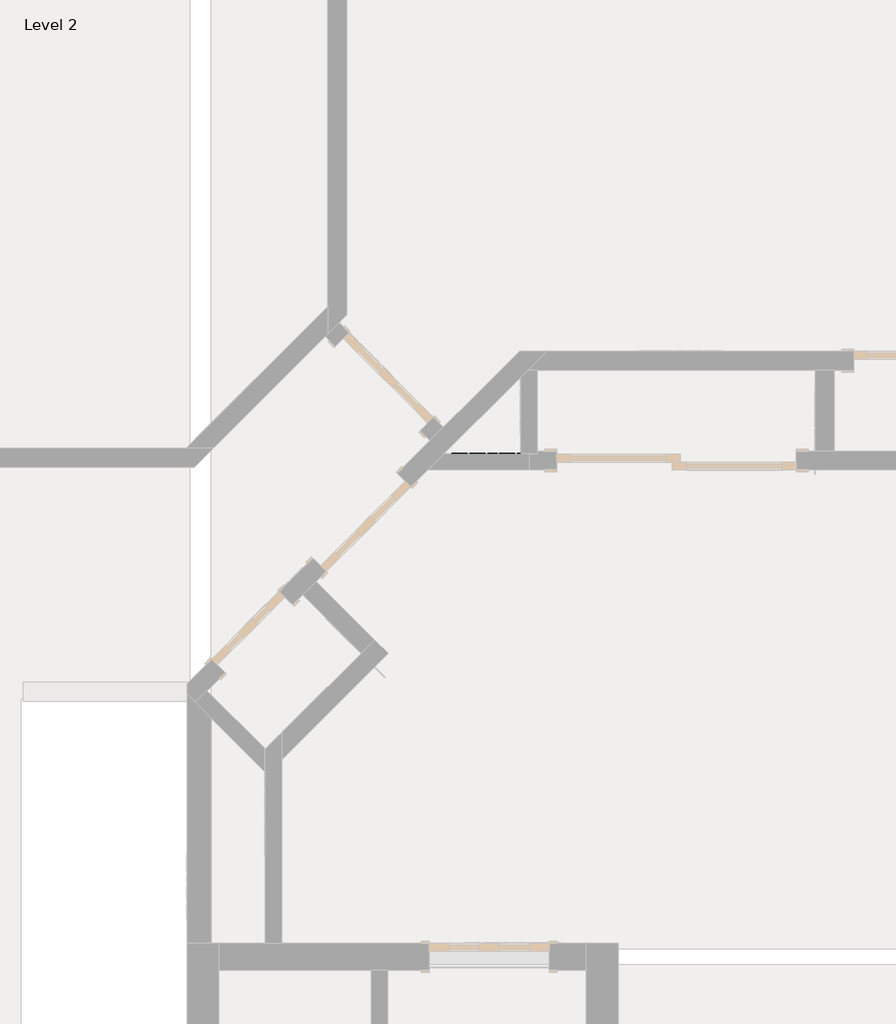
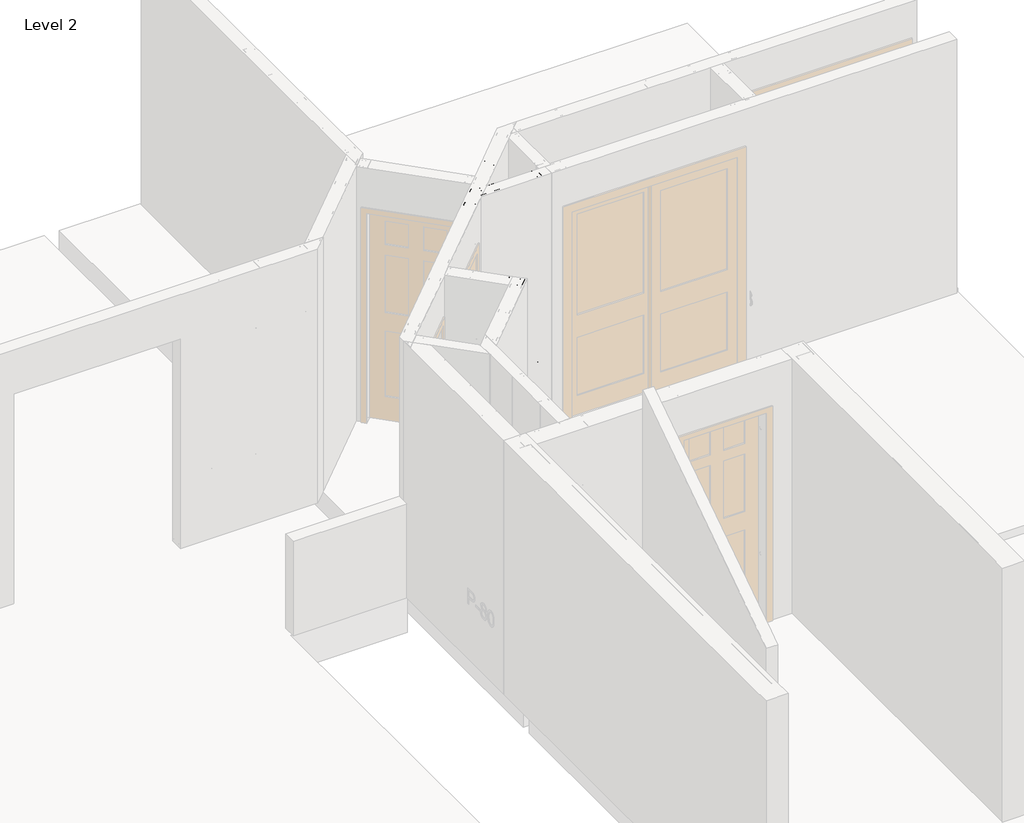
# One storey, part 39 of 46: 8 columns, 2 beams, 1 fastener.
"""IFC4 building model written with IfcOpenShell, lengths in millimetres."""

from ifc_helpers import new_model, si_unit, point, frame, origin, place, context, project, spatial, circle_curve, ellipse_curve, trimmed, transform, mapped, element, save
from ifc_brep_helpers import plane_surface, extruded_surface, advanced_brep
from components import beam_350nf150_33_6160dac6, beam_350nf150_33_bbf778cd, column_350nf150_33_a93e9d8a, panellabel_0102b043

model = new_model("IFC4")

# Units and contexts
model_context = context("Model", 3, world=origin())
ifc_project = project(units=[si_unit("LENGTHUNIT", "METRE", prefix="MILLI")], contexts=[model_context])

# Site, building, storey
site = spatial("IfcSite", under=ifc_project)
building = spatial("IfcBuilding", under=site)
storey = spatial("IfcBuildingStorey", under=building, Name="Level 2", Elevation=3060.7)

# Beams
placement = place(None, origin())
beam_350nf150_33_shape = beam_350nf150_33_6160dac6(model_context)
element("IfcBeam", 1, ObjectType="BIMSF-SSMA-S : 350NF150-33", at=placement, inside=storey, context=model_context, shape_type="MappedRepresentation", body=[
    mapped(beam_350nf150_33_shape, transform((-7372.6754989, 9854.9383638, 3076.575), x_axis=(0.7071067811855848, 0.7071067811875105, 0.0), y_axis=(0.0, 0.0, -1.0000000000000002), z_axis=(-0.7071067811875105, 0.7071067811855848, 0.0))),
])
beam_350nf150_33_2_shape = beam_350nf150_33_bbf778cd(model_context)
element("IfcBeam", 2, ObjectType="BIMSF-SSMA-S : 350NF150-33", at=placement, inside=storey, context=model_context, shape_type="MappedRepresentation", body=[
    mapped(beam_350nf150_33_2_shape, transform((-7301.6732437, 9615.2035298, 3076.575), x_axis=(-1.0000000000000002, 0.0, 0.0), y_axis=(0.0, 0.0, -1.0000000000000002), z_axis=(0.0, -1.0000000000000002, 0.0))),
])

# Columns
element("IfcColumn", 3, ObjectType="BIMSF-SSMA-S-Column : 350NF150-33", at=placement, inside=storey, context=model_context, shape_type="AdvancedBrep", body=[
    advanced_brep(
    [(-7570.8615019, 9593.8905679, 3061.5929687), (-7633.7232948, 9656.7523608, 3061.5929687), (-7606.7825264, 9683.6931292, 3061.5929687), (-7602.7820586, 9679.6926614, 3061.5929687), (-7603.4059501, 9679.0687699, 3061.5929687), (-7606.7825264, 9682.4453462, 3061.5929687), (-7632.4755118, 9656.7523608, 3061.5929687), (-7570.8615019, 9595.1383509, 3061.5929687), (-7545.1685165, 9620.8313363, 3061.5929687), (-7548.5450928, 9624.2079126, 3061.5929687), (-7547.9212013, 9624.8318041, 3061.5929687), (-7543.9207336, 9620.8313363, 3061.5929687), (-7570.8615019, 9593.8905679, 5523.6070313), (-7633.7232948, 9656.7523608, 5523.6070313), (-7611.2726545, 9634.3017205, 3671.1929688), (-7593.3121422, 9616.3412082, 3671.1929688), (-7611.2726545, 9634.3017205, 4890.3929688), (-7593.3121422, 9616.3412082, 4890.3929687), (-7606.7825264, 9683.6931292, 5523.6070313), (-7602.7820586, 9679.6926614, 5523.6070313), (-7603.4059501, 9679.0687699, 5523.6070313), (-7606.7825264, 9682.4453462, 5523.6070313), (-7632.4755118, 9656.7523608, 5523.6070313), (-7570.8615019, 9595.1383509, 5523.6070313), (-7592.6882507, 9616.9650997, 3671.1929688), (-7610.648763, 9634.925612, 3671.1929688), (-7592.6882507, 9616.9650997, 4890.3929687), (-7610.648763, 9634.925612, 4890.3929688), (-7545.1685165, 9620.8313363, 5523.6070313), (-7548.5450928, 9624.2079126, 5523.6070313), (-7547.9212013, 9624.8318041, 5523.6070313), (-7543.9207336, 9620.8313363, 5523.6070313)],
    [
        (0, 1),
        (1, 2),
        (2, 3),
        (3, 4),
        (4, 5),
        (5, 6),
        (6, 7),
        (7, 8),
        (8, 9),
        (9, 10),
        (10, 11),
        (11, 0),
        (0, 12),
        (12, 13),
        (13, 1),
        (14, 15, circle_curve(frame((-7602.2923983, 9625.3214644, 3671.1929688), z_axis=(0.7071067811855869, 0.7071067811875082, 0.0), x_axis=(-0.7071067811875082, 0.7071067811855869, 0.0)), 12.7)),
        (15, 14, circle_curve(frame((-7602.2923983, 9625.3214644, 3671.1929688), z_axis=(0.7071067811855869, 0.7071067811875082, 0.0), x_axis=(-0.7071067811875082, 0.7071067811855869, 0.0)), 12.7)),
        (16, 17, circle_curve(frame((-7602.2923983, 9625.3214644, 4890.3929687), z_axis=(0.7071067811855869, 0.7071067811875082, 0.0), x_axis=(-0.7071067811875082, 0.7071067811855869, 0.0)), 12.7)),
        (17, 16, circle_curve(frame((-7602.2923983, 9625.3214644, 4890.3929687), z_axis=(0.7071067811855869, 0.7071067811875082, 0.0), x_axis=(-0.7071067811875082, 0.7071067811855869, 0.0)), 12.7)),
        (13, 18),
        (18, 2),
        (18, 19),
        (19, 3),
        (19, 20),
        (20, 4),
        (20, 21),
        (21, 5),
        (21, 22),
        (22, 6),
        (22, 23),
        (23, 7),
        (24, 25, circle_curve(frame((-7601.6685069, 9625.9453558, 3671.1929688), z_axis=(-0.7071067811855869, -0.7071067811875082, 0.0), x_axis=(-0.7071067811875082, 0.7071067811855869, 0.0)), 12.7)),
        (25, 24, circle_curve(frame((-7601.6685069, 9625.9453558, 3671.1929687), z_axis=(-0.7071067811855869, -0.7071067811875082, 0.0), x_axis=(-0.7071067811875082, 0.7071067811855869, 0.0)), 12.7)),
        (26, 27, circle_curve(frame((-7601.6685069, 9625.9453558, 4890.3929687), z_axis=(-0.7071067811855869, -0.7071067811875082, 0.0), x_axis=(-0.7071067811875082, 0.7071067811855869, 0.0)), 12.7)),
        (27, 26, circle_curve(frame((-7601.6685069, 9625.9453558, 4890.3929687), z_axis=(-0.7071067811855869, -0.7071067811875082, 0.0), x_axis=(-0.7071067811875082, 0.7071067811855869, 0.0)), 12.7)),
        (23, 28),
        (28, 8),
        (28, 29),
        (29, 9),
        (29, 30),
        (30, 10),
        (30, 31),
        (31, 11),
        (31, 12),
        (24, 15),
        (14, 25),
        (26, 17),
        (16, 27),
    ],
    [
        plane_surface(frame((-7570.8615019, 9593.8905679, 3061.5929687), z_axis=(0.0, 0.0, -1.0000000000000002), x_axis=(-0.7071067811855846, -0.7071067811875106, 0.0))),
        plane_surface(frame((-7633.7232948, 9656.7523608, 5523.6070313), z_axis=(-0.7071067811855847, -0.7071067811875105, 0.0), x_axis=(0.0, 0.0, -1.0))),
        plane_surface(frame((-7606.7825264, 9683.6931292, 5523.6070313), z_axis=(-0.7071067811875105, 0.7071067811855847, 0.0), x_axis=(0.0, 0.0, -1.0))),
        plane_surface(frame((-7602.7820586, 9679.6926614, 5523.6070313), z_axis=(0.7071067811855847, 0.7071067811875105, 0.0), x_axis=(0.0, 0.0, -1.0))),
        plane_surface(frame((-7603.4059501, 9679.0687699, 5523.6070313), z_axis=(0.7071067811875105, -0.7071067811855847, 0.0), x_axis=(0.0, 0.0, -1.0))),
        plane_surface(frame((-7606.7825264, 9682.4453462, 5523.6070313), z_axis=(-0.7071067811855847, -0.7071067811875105, 0.0), x_axis=(0.0, 0.0, -1.0))),
        plane_surface(frame((-7632.4755118, 9656.7523608, 5523.6070313), z_axis=(0.7071067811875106, -0.7071067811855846, 0.0), x_axis=(0.0, 0.0, -1.0))),
        plane_surface(frame((-7570.8615019, 9595.1383509, 5523.6070313), z_axis=(0.7071067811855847, 0.7071067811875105, 0.0), x_axis=(0.0, 0.0, -1.0))),
        plane_surface(frame((-7545.1685165, 9620.8313363, 5523.6070313), z_axis=(-0.7071067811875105, 0.7071067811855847, 0.0), x_axis=(0.0, 0.0, -1.0))),
        plane_surface(frame((-7548.5450928, 9624.2079126, 5523.6070313), z_axis=(-0.7071067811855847, -0.7071067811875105, 0.0), x_axis=(0.0, 0.0, -1.0))),
        plane_surface(frame((-7547.9212013, 9624.8318041, 5523.6070313), z_axis=(-0.7071067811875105, 0.7071067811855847, 0.0), x_axis=(0.0, 0.0, -1.0))),
        plane_surface(frame((-7543.9207336, 9620.8313363, 5523.6070313), z_axis=(0.7071067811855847, 0.7071067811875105, 0.0), x_axis=(0.0, 0.0, -1.0))),
        plane_surface(frame((-7570.8615019, 9593.8905679, 5523.6070313), z_axis=(0.7071067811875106, -0.7071067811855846, 0.0), x_axis=(0.0, 0.0, -1.0))),
        plane_surface(frame((-7570.8615019, 9593.8905679, 5523.6070313), z_axis=(0.0, 0.0, 1.0000000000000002), x_axis=(0.7071067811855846, 0.7071067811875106, 0.0))),
        extruded_surface(trimmed(ellipse_curve(frame((-5847.9151752, 11379.6986875, 3671.1929688), z_axis=(-0.7071067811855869, -0.7071067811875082, 0.0), x_axis=(-0.7071067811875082, 0.7071067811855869, 0.0)), 12.7, 12.7), [point((-5838.9349191, 11370.7184314, 3671.1929688))], [point((-5856.8954313, 11388.6789436, 3671.1929688))], True, "CARTESIAN"), (3481.8136778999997, 3481.8136780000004, 0.0), 4924.028125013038),
        extruded_surface(trimmed(ellipse_curve(frame((-5847.9151752, 11379.6986875, 3671.1929688), z_axis=(-0.7071067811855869, -0.7071067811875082, 0.0), x_axis=(-0.7071067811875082, 0.7071067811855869, 0.0)), 12.7, 12.7), [point((-5856.8954313, 11388.6789436, 3671.1929688))], [point((-5838.9349191, 11370.7184314, 3671.1929688))], True, "CARTESIAN"), (3481.8136778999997, 3481.8136780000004, 0.0), 4924.028125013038),
        extruded_surface(trimmed(ellipse_curve(frame((-5847.9151752, 11379.6986875, 4890.3929687), z_axis=(-0.7071067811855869, -0.7071067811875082, 0.0), x_axis=(-0.7071067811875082, 0.7071067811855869, 0.0)), 12.7, 12.7), [point((-5838.9349191, 11370.7184314, 4890.3929687))], [point((-5856.8954313, 11388.6789436, 4890.3929687))], True, "CARTESIAN"), (3481.8136778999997, 3481.8136780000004, 0.0), 4924.028125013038),
        extruded_surface(trimmed(ellipse_curve(frame((-5847.9151752, 11379.6986875, 4890.3929687), z_axis=(-0.7071067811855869, -0.7071067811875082, 0.0), x_axis=(-0.7071067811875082, 0.7071067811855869, 0.0)), 12.7, 12.7), [point((-5856.8954313, 11388.6789436, 4890.3929687))], [point((-5838.9349191, 11370.7184314, 4890.3929687))], True, "CARTESIAN"), (3481.8136778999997, 3481.8136780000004, 0.0), 4924.028125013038),
    ],
    [
        (0, [[1, 2, 3, 4, 5, 6, 7, 8, 9, 10, 11, 12]]),
        (1, [[-1, 13, 14, 15], [16, 17], [18, 19]]),
        (2, [[-2, -15, 20, 21]]),
        (3, [[-3, -21, 22, 23]]),
        (4, [[-4, -23, 24, 25]]),
        (5, [[-5, -25, 26, 27]]),
        (6, [[-6, -27, 28, 29]]),
        (7, [[-7, -29, 30, 31], [32, 33], [34, 35]]),
        (8, [[-8, -31, 36, 37]]),
        (9, [[-9, -37, 38, 39]]),
        (10, [[-10, -39, 40, 41]]),
        (11, [[-11, -41, 42, 43]]),
        (12, [[-12, -43, 44, -13]]),
        (13, [[-14, -44, -42, -40, -38, -36, -30, -28, -26, -24, -22, -20]]),
        (14, [[45, -16, 46, -32]]),
        (15, [[-45, -33, -46, -17]]),
        (16, [[47, -18, 48, -34]]),
        (17, [[-47, -35, -48, -19]]),
    ],
),
])
element("IfcColumn", 4, ObjectType="BIMSF-SSMA-S-Column : 350NF150-33", at=placement, inside=storey, context=model_context, shape_type="AdvancedBrep", body=[
    advanced_brep(
    [(-7283.493306, 9881.2587638, 3061.5929687), (-7346.3550989, 9944.1205567, 3061.5929687), (-7319.4143305, 9971.061325, 3061.5929687), (-7315.4138628, 9967.0608573, 3061.5929687), (-7316.0377542, 9966.4369658, 3061.5929687), (-7319.4143305, 9969.8135421, 3061.5929687), (-7345.1073159, 9944.1205567, 3061.5929687), (-7283.493306, 9882.5065468, 3061.5929687), (-7257.8003206, 9908.1995322, 3061.5929687), (-7261.1768969, 9911.5761085, 3061.5929687), (-7260.5530055, 9912.2, 3061.5929687), (-7256.5525377, 9908.1995322, 3061.5929687), (-7283.493306, 9881.2587638, 5523.6070313), (-7346.3550989, 9944.1205567, 5523.6070313), (-7323.9044586, 9921.6699164, 3671.1929688), (-7305.9439463, 9903.7094041, 3671.1929687), (-7323.9044586, 9921.6699164, 4890.3929687), (-7305.9439463, 9903.7094041, 4890.3929687), (-7319.4143305, 9971.061325, 5523.6070313), (-7315.4138628, 9967.0608573, 5523.6070313), (-7316.0377542, 9966.4369658, 5523.6070313), (-7319.4143305, 9969.8135421, 5523.6070313), (-7345.1073159, 9944.1205567, 5523.6070313), (-7283.493306, 9882.5065468, 5523.6070313), (-7305.3200549, 9904.3332956, 3671.1929687), (-7323.2805671, 9922.2938078, 3671.1929688), (-7305.3200549, 9904.3332956, 4890.3929687), (-7323.2805671, 9922.2938078, 4890.3929688), (-7257.8003206, 9908.1995322, 5523.6070313), (-7261.1768969, 9911.5761085, 5523.6070313), (-7260.5530055, 9912.2, 5523.6070313), (-7256.5525377, 9908.1995322, 5523.6070313)],
    [
        (0, 1),
        (1, 2),
        (2, 3),
        (3, 4),
        (4, 5),
        (5, 6),
        (6, 7),
        (7, 8),
        (8, 9),
        (9, 10),
        (10, 11),
        (11, 0),
        (0, 12),
        (12, 13),
        (13, 1),
        (14, 15, circle_curve(frame((-7314.9242025, 9912.6896602, 3671.1929687), z_axis=(0.7071067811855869, 0.7071067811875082, 0.0), x_axis=(-0.7071067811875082, 0.7071067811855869, 0.0)), 12.7)),
        (15, 14, circle_curve(frame((-7314.9242025, 9912.6896602, 3671.1929688), z_axis=(0.7071067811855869, 0.7071067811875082, 0.0), x_axis=(-0.7071067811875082, 0.7071067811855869, 0.0)), 12.7)),
        (16, 17, circle_curve(frame((-7314.9242025, 9912.6896602, 4890.3929687), z_axis=(0.7071067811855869, 0.7071067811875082, 0.0), x_axis=(-0.7071067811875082, 0.7071067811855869, 0.0)), 12.7)),
        (17, 16, circle_curve(frame((-7314.9242025, 9912.6896602, 4890.3929687), z_axis=(0.7071067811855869, 0.7071067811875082, 0.0), x_axis=(-0.7071067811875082, 0.7071067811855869, 0.0)), 12.7)),
        (13, 18),
        (18, 2),
        (18, 19),
        (19, 3),
        (19, 20),
        (20, 4),
        (20, 21),
        (21, 5),
        (21, 22),
        (22, 6),
        (22, 23),
        (23, 7),
        (24, 25, circle_curve(frame((-7314.300311, 9913.3135517, 3671.1929687), z_axis=(-0.7071067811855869, -0.7071067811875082, 0.0), x_axis=(-0.7071067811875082, 0.7071067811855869, 0.0)), 12.7)),
        (25, 24, circle_curve(frame((-7314.300311, 9913.3135517, 3671.1929687), z_axis=(-0.7071067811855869, -0.7071067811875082, 0.0), x_axis=(-0.7071067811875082, 0.7071067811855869, 0.0)), 12.7)),
        (26, 27, circle_curve(frame((-7314.300311, 9913.3135517, 4890.3929687), z_axis=(-0.7071067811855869, -0.7071067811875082, 0.0), x_axis=(-0.7071067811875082, 0.7071067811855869, 0.0)), 12.7)),
        (27, 26, circle_curve(frame((-7314.300311, 9913.3135517, 4890.3929687), z_axis=(-0.7071067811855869, -0.7071067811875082, 0.0), x_axis=(-0.7071067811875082, 0.7071067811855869, 0.0)), 12.7)),
        (23, 28),
        (28, 8),
        (28, 29),
        (29, 9),
        (29, 30),
        (30, 10),
        (30, 31),
        (31, 11),
        (31, 12),
        (24, 15),
        (14, 25),
        (26, 17),
        (16, 27),
    ],
    [
        plane_surface(frame((-7283.493306, 9881.2587638, 3061.5929687), z_axis=(0.0, 0.0, -1.0000000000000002), x_axis=(-0.7071067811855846, -0.7071067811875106, 0.0))),
        plane_surface(frame((-7346.3550989, 9944.1205567, 5523.6070313), z_axis=(-0.7071067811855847, -0.7071067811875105, 0.0), x_axis=(0.0, 0.0, -1.0))),
        plane_surface(frame((-7319.4143305, 9971.061325, 5523.6070313), z_axis=(-0.7071067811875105, 0.7071067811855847, 0.0), x_axis=(0.0, 0.0, -1.0))),
        plane_surface(frame((-7315.4138628, 9967.0608573, 5523.6070313), z_axis=(0.7071067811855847, 0.7071067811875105, 0.0), x_axis=(0.0, 0.0, -1.0))),
        plane_surface(frame((-7316.0377542, 9966.4369658, 5523.6070313), z_axis=(0.7071067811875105, -0.7071067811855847, 0.0), x_axis=(0.0, 0.0, -1.0))),
        plane_surface(frame((-7319.4143305, 9969.8135421, 5523.6070313), z_axis=(-0.7071067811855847, -0.7071067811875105, 0.0), x_axis=(0.0, 0.0, -1.0))),
        plane_surface(frame((-7345.1073159, 9944.1205567, 5523.6070313), z_axis=(0.7071067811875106, -0.7071067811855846, 0.0), x_axis=(0.0, 0.0, -1.0))),
        plane_surface(frame((-7283.493306, 9882.5065468, 5523.6070313), z_axis=(0.7071067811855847, 0.7071067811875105, 0.0), x_axis=(0.0, 0.0, -1.0))),
        plane_surface(frame((-7257.8003206, 9908.1995322, 5523.6070313), z_axis=(-0.7071067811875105, 0.7071067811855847, 0.0), x_axis=(0.0, 0.0, -1.0))),
        plane_surface(frame((-7261.1768969, 9911.5761085, 5523.6070313), z_axis=(-0.7071067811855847, -0.7071067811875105, 0.0), x_axis=(0.0, 0.0, -1.0))),
        plane_surface(frame((-7260.5530055, 9912.2, 5523.6070313), z_axis=(-0.7071067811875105, 0.7071067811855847, 0.0), x_axis=(0.0, 0.0, -1.0))),
        plane_surface(frame((-7256.5525377, 9908.1995322, 5523.6070313), z_axis=(0.7071067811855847, 0.7071067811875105, 0.0), x_axis=(0.0, 0.0, -1.0))),
        plane_surface(frame((-7283.493306, 9881.2587638, 5523.6070313), z_axis=(0.7071067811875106, -0.7071067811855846, 0.0), x_axis=(0.0, 0.0, -1.0))),
        plane_surface(frame((-7283.493306, 9881.2587638, 5523.6070313), z_axis=(0.0, 0.0, 1.0000000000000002), x_axis=(0.7071067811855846, 0.7071067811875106, 0.0))),
        extruded_surface(trimmed(ellipse_curve(frame((-5560.5469793, 11667.0668834, 3671.1929688), z_axis=(-0.7071067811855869, -0.7071067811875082, 0.0), x_axis=(-0.7071067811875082, 0.7071067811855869, 0.0)), 12.7, 12.7), [point((-5551.5667232, 11658.0866273, 3671.1929688))], [point((-5569.5272354, 11676.0471395, 3671.1929688))], True, "CARTESIAN"), (3481.8136779, 3481.8136778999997, 0.0), 4924.028124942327),
        extruded_surface(trimmed(ellipse_curve(frame((-5560.5469793, 11667.0668834, 3671.1929688), z_axis=(-0.7071067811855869, -0.7071067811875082, 0.0), x_axis=(-0.7071067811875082, 0.7071067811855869, 0.0)), 12.7, 12.7), [point((-5569.5272354, 11676.0471395, 3671.1929688))], [point((-5551.5667232, 11658.0866273, 3671.1929688))], True, "CARTESIAN"), (3481.8136779, 3481.8136778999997, 0.0), 4924.028124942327),
        extruded_surface(trimmed(ellipse_curve(frame((-5560.5469793, 11667.0668834, 4890.3929687), z_axis=(-0.7071067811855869, -0.7071067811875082, 0.0), x_axis=(-0.7071067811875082, 0.7071067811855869, 0.0)), 12.7, 12.7), [point((-5551.5667232, 11658.0866273, 4890.3929687))], [point((-5569.5272354, 11676.0471395, 4890.3929687))], True, "CARTESIAN"), (3481.8136779, 3481.8136778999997, 0.0), 4924.028124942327),
        extruded_surface(trimmed(ellipse_curve(frame((-5560.5469793, 11667.0668834, 4890.3929687), z_axis=(-0.7071067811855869, -0.7071067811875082, 0.0), x_axis=(-0.7071067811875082, 0.7071067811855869, 0.0)), 12.7, 12.7), [point((-5569.5272354, 11676.0471395, 4890.3929687))], [point((-5551.5667232, 11658.0866273, 4890.3929687))], True, "CARTESIAN"), (3481.8136779, 3481.8136778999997, 0.0), 4924.028124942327),
    ],
    [
        (0, [[1, 2, 3, 4, 5, 6, 7, 8, 9, 10, 11, 12]]),
        (1, [[-1, 13, 14, 15], [16, 17], [18, 19]]),
        (2, [[-2, -15, 20, 21]]),
        (3, [[-3, -21, 22, 23]]),
        (4, [[-4, -23, 24, 25]]),
        (5, [[-5, -25, 26, 27]]),
        (6, [[-6, -27, 28, 29]]),
        (7, [[-7, -29, 30, 31], [32, 33], [34, 35]]),
        (8, [[-8, -31, 36, 37]]),
        (9, [[-9, -37, 38, 39]]),
        (10, [[-10, -39, 40, 41]]),
        (11, [[-11, -41, 42, 43]]),
        (12, [[-12, -43, 44, -13]]),
        (13, [[-14, -44, -42, -40, -38, -36, -30, -28, -26, -24, -22, -20]]),
        (14, [[45, -16, 46, -32]]),
        (15, [[-45, -33, -46, -17]]),
        (16, [[47, -18, 48, -34]]),
        (17, [[-47, -35, -48, -19]]),
    ],
),
])
element("IfcColumn", 5, ObjectType="BIMSF-SSMA-S-Column : 350NF150-33", at=placement, inside=storey, context=model_context, shape_type="AdvancedBrep", body=[
    advanced_brep(
    [(-7862.0637209, 8386.7022246, 3061.5929687), (-7924.9255138, 8323.8404317, 3061.5929687), (-7951.8662821, 8350.7812001, 3061.5929687), (-7947.8658144, 8354.7816679, 3061.5929687), (-7947.2419229, 8354.1577764, 3061.5929687), (-7950.6184992, 8350.7812001, 3061.5929687), (-7924.9255138, 8325.0882147, 3061.5929687), (-7863.3115039, 8386.7022246, 3061.5929687), (-7889.0044893, 8412.39521, 3061.5929687), (-7892.3810656, 8409.0186337, 3061.5929687), (-7893.0049571, 8409.6425252, 3061.5929687), (-7889.0044893, 8413.642993, 3061.5929687), (-7862.0637209, 8386.7022246, 5523.6070313), (-7924.9255138, 8323.8404317, 5523.6070313), (-7902.4748735, 8346.291072, 3671.1929687), (-7884.5143612, 8364.2515843, 3671.1929688), (-7902.4748735, 8346.291072, 4890.3929688), (-7884.5143612, 8364.2515843, 4890.3929687), (-7951.8662821, 8350.7812001, 5523.6070313), (-7947.8658144, 8354.7816679, 5523.6070313), (-7947.2419229, 8354.1577764, 5523.6070313), (-7950.6184992, 8350.7812001, 5523.6070313), (-7924.9255138, 8325.0882147, 5523.6070313), (-7863.3115039, 8386.7022246, 5523.6070313), (-7885.1382527, 8364.8754758, 3671.1929688), (-7903.0987649, 8346.9149635, 3671.1929687), (-7885.1382527, 8364.8754758, 4890.3929687), (-7903.0987649, 8346.9149635, 4890.3929688), (-7889.0044893, 8412.39521, 5523.6070313), (-7892.3810656, 8409.0186337, 5523.6070313), (-7893.0049571, 8409.6425252, 5523.6070313), (-7889.0044893, 8413.642993, 5523.6070313)],
    [
        (0, 1),
        (1, 2),
        (2, 3),
        (3, 4),
        (4, 5),
        (5, 6),
        (6, 7),
        (7, 8),
        (8, 9),
        (9, 10),
        (10, 11),
        (11, 0),
        (0, 12),
        (12, 13),
        (13, 1),
        (14, 15, circle_curve(frame((-7893.4946173, 8355.2713282, 3671.1929688), z_axis=(-0.7071067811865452, 0.7071067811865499, 0.0), x_axis=(-0.7071067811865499, -0.7071067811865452, 0.0)), 12.7)),
        (15, 14, circle_curve(frame((-7893.4946173, 8355.2713282, 3671.1929688), z_axis=(-0.7071067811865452, 0.7071067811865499, 0.0), x_axis=(-0.7071067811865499, -0.7071067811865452, 0.0)), 12.7)),
        (16, 17, circle_curve(frame((-7893.4946173, 8355.2713282, 4890.3929688), z_axis=(-0.7071067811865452, 0.7071067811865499, 0.0), x_axis=(-0.7071067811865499, -0.7071067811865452, 0.0)), 12.7)),
        (17, 16, circle_curve(frame((-7893.4946173, 8355.2713282, 4890.3929687), z_axis=(-0.7071067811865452, 0.7071067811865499, 0.0), x_axis=(-0.7071067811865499, -0.7071067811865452, 0.0)), 12.7)),
        (13, 18),
        (18, 2),
        (18, 19),
        (19, 3),
        (19, 20),
        (20, 4),
        (20, 21),
        (21, 5),
        (21, 22),
        (22, 6),
        (22, 23),
        (23, 7),
        (24, 25, circle_curve(frame((-7894.1185088, 8355.8952196, 3671.1929688), z_axis=(0.7071067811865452, -0.7071067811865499, 0.0), x_axis=(-0.7071067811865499, -0.7071067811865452, 0.0)), 12.7)),
        (25, 24, circle_curve(frame((-7894.1185088, 8355.8952196, 3671.1929687), z_axis=(0.7071067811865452, -0.7071067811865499, 0.0), x_axis=(-0.7071067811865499, -0.7071067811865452, 0.0)), 12.7)),
        (26, 27, circle_curve(frame((-7894.1185088, 8355.8952196, 4890.3929687), z_axis=(0.7071067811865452, -0.7071067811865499, 0.0), x_axis=(-0.7071067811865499, -0.7071067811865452, 0.0)), 12.7)),
        (27, 26, circle_curve(frame((-7894.1185088, 8355.8952196, 4890.3929687), z_axis=(0.7071067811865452, -0.7071067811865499, 0.0), x_axis=(-0.7071067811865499, -0.7071067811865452, 0.0)), 12.7)),
        (23, 28),
        (28, 8),
        (28, 29),
        (29, 9),
        (29, 30),
        (30, 10),
        (30, 31),
        (31, 11),
        (31, 12),
        (24, 15),
        (14, 25),
        (26, 17),
        (16, 27),
    ],
    [
        plane_surface(frame((-7862.0637209, 8386.7022246, 3061.5929687), z_axis=(0.0, 0.0, -1.0000000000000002), x_axis=(0.7071067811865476, -0.7071067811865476, 0.0))),
        plane_surface(frame((-7924.9255138, 8323.8404317, 5523.6070313), z_axis=(0.7071067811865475, -0.7071067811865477, 0.0), x_axis=(0.0, 0.0, -1.0))),
        plane_surface(frame((-7951.8662821, 8350.7812001, 5523.6070313), z_axis=(-0.7071067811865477, -0.7071067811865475, 0.0), x_axis=(0.0, 0.0, -1.0))),
        plane_surface(frame((-7947.8658144, 8354.7816679, 5523.6070313), z_axis=(-0.7071067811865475, 0.7071067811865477, 0.0), x_axis=(0.0, 0.0, -1.0))),
        plane_surface(frame((-7947.2419229, 8354.1577764, 5523.6070313), z_axis=(0.7071067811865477, 0.7071067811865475, 0.0), x_axis=(0.0, 0.0, -1.0))),
        plane_surface(frame((-7950.6184992, 8350.7812001, 5523.6070313), z_axis=(0.7071067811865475, -0.7071067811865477, 0.0), x_axis=(0.0, 0.0, -1.0))),
        plane_surface(frame((-7924.9255138, 8325.0882147, 5523.6070313), z_axis=(0.7071067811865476, 0.7071067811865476, 0.0), x_axis=(0.0, 0.0, -1.0))),
        plane_surface(frame((-7863.3115039, 8386.7022246, 5523.6070313), z_axis=(-0.7071067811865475, 0.7071067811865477, 0.0), x_axis=(0.0, 0.0, -1.0))),
        plane_surface(frame((-7889.0044893, 8412.39521, 5523.6070313), z_axis=(-0.7071067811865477, -0.7071067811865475, 0.0), x_axis=(0.0, 0.0, -1.0))),
        plane_surface(frame((-7892.3810656, 8409.0186337, 5523.6070313), z_axis=(0.7071067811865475, -0.7071067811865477, 0.0), x_axis=(0.0, 0.0, -1.0))),
        plane_surface(frame((-7893.0049571, 8409.6425252, 5523.6070313), z_axis=(-0.7071067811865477, -0.7071067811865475, 0.0), x_axis=(0.0, 0.0, -1.0))),
        plane_surface(frame((-7889.0044893, 8413.642993, 5523.6070313), z_axis=(-0.7071067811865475, 0.7071067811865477, 0.0), x_axis=(0.0, 0.0, -1.0))),
        plane_surface(frame((-7862.0637209, 8386.7022246, 5523.6070313), z_axis=(0.7071067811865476, 0.7071067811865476, 0.0), x_axis=(0.0, 0.0, -1.0))),
        plane_surface(frame((-7862.0637209, 8386.7022246, 5523.6070313), z_axis=(0.0, 0.0, 1.0000000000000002), x_axis=(-0.7071067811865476, 0.7071067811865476, 0.0))),
        extruded_surface(trimmed(ellipse_curve(frame((-9647.8718405, 10109.6485513, 3671.1929688), z_axis=(0.7071067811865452, -0.7071067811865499, 0.0), x_axis=(-0.7071067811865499, -0.7071067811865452, 0.0)), 12.7, 12.7), [point((-9638.8915844, 10118.6288074, 3671.1929688))], [point((-9656.8520966, 10100.6682952, 3671.1929688))], True, "CARTESIAN"), (-3481.8136778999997, 3481.8136779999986, 0.0), 4924.0281250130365),
        extruded_surface(trimmed(ellipse_curve(frame((-9647.8718405, 10109.6485513, 3671.1929688), z_axis=(0.7071067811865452, -0.7071067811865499, 0.0), x_axis=(-0.7071067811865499, -0.7071067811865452, 0.0)), 12.7, 12.7), [point((-9656.8520966, 10100.6682952, 3671.1929688))], [point((-9638.8915844, 10118.6288074, 3671.1929688))], True, "CARTESIAN"), (-3481.8136778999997, 3481.8136779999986, 0.0), 4924.0281250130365),
        extruded_surface(trimmed(ellipse_curve(frame((-9647.8718405, 10109.6485513, 4890.3929687), z_axis=(0.7071067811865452, -0.7071067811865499, 0.0), x_axis=(-0.7071067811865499, -0.7071067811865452, 0.0)), 12.7, 12.7), [point((-9638.8915844, 10118.6288074, 4890.3929687))], [point((-9656.8520966, 10100.6682952, 4890.3929687))], True, "CARTESIAN"), (-3481.8136778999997, 3481.8136779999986, 0.0), 4924.0281250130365),
        extruded_surface(trimmed(ellipse_curve(frame((-9647.8718405, 10109.6485513, 4890.3929687), z_axis=(0.7071067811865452, -0.7071067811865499, 0.0), x_axis=(-0.7071067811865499, -0.7071067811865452, 0.0)), 12.7, 12.7), [point((-9656.8520966, 10100.6682952, 4890.3929687))], [point((-9638.8915844, 10118.6288074, 4890.3929687))], True, "CARTESIAN"), (-3481.8136778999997, 3481.8136779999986, 0.0), 4924.0281250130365),
    ],
    [
        (0, [[1, 2, 3, 4, 5, 6, 7, 8, 9, 10, 11, 12]]),
        (1, [[-1, 13, 14, 15], [16, 17], [18, 19]]),
        (2, [[-2, -15, 20, 21]]),
        (3, [[-3, -21, 22, 23]]),
        (4, [[-4, -23, 24, 25]]),
        (5, [[-5, -25, 26, 27]]),
        (6, [[-6, -27, 28, 29]]),
        (7, [[-7, -29, 30, 31], [32, 33], [34, 35]]),
        (8, [[-8, -31, 36, 37]]),
        (9, [[-9, -37, 38, 39]]),
        (10, [[-10, -39, 40, 41]]),
        (11, [[-11, -41, 42, 43]]),
        (12, [[-12, -43, 44, -13]]),
        (13, [[-14, -44, -42, -40, -38, -36, -30, -28, -26, -24, -22, -20]]),
        (14, [[45, -16, 46, -32]]),
        (15, [[-45, -33, -46, -17]]),
        (16, [[47, -18, 48, -34]]),
        (17, [[-47, -35, -48, -19]]),
    ],
),
])
element("IfcColumn", 6, ObjectType="BIMSF-SSMA-S-Column : 350NF150-33", at=placement, inside=storey, context=model_context, shape_type="AdvancedBrep", body=[
    advanced_brep(
    [(-7027.4486545, 9659.6535298, 3061.5929687), (-7027.4486545, 9570.7535298, 3061.5929687), (-7065.5486545, 9570.7535298, 3061.5929687), (-7065.5486545, 9576.4110455, 3061.5929687), (-7064.6663387, 9576.4110455, 3061.5929687), (-7064.6663387, 9571.6358455, 3061.5929687), (-7028.3309703, 9571.6358455, 3061.5929687), (-7028.3309703, 9658.771214, 3061.5929687), (-7064.6663387, 9658.771214, 3061.5929687), (-7064.6663387, 9653.996014, 3061.5929687), (-7065.5486545, 9653.996014, 3061.5929687), (-7065.5486545, 9659.6535298, 3061.5929687), (-7027.4486545, 9659.6535298, 5523.6070313), (-7027.4486545, 9570.7535298, 5523.6070313), (-7027.4486545, 9602.5035298, 3671.1929687), (-7027.4486545, 9627.9035298, 3671.1929687), (-7027.4486545, 9602.5035298, 4890.3929687), (-7027.4486545, 9627.9035298, 4890.3929687), (-7065.5486545, 9570.7535298, 5523.6070313), (-7065.5486545, 9576.4110455, 5523.6070313), (-7064.6663387, 9576.4110455, 5523.6070313), (-7064.6663387, 9571.6358455, 5523.6070313), (-7028.3309703, 9571.6358455, 5523.6070313), (-7028.3309703, 9658.771214, 5523.6070313), (-7028.3309703, 9627.9035298, 3671.1929688), (-7028.3309703, 9602.5035298, 3671.1929688), (-7028.3309703, 9627.9035298, 4890.3929687), (-7028.3309703, 9602.5035298, 4890.3929687), (-7064.6663387, 9658.771214, 5523.6070313), (-7064.6663387, 9653.996014, 5523.6070313), (-7065.5486545, 9653.996014, 5523.6070313), (-7065.5486545, 9659.6535298, 5523.6070313)],
    [
        (0, 1),
        (1, 2),
        (2, 3),
        (3, 4),
        (4, 5),
        (5, 6),
        (6, 7),
        (7, 8),
        (8, 9),
        (9, 10),
        (10, 11),
        (11, 0),
        (0, 12),
        (12, 13),
        (13, 1),
        (14, 15, circle_curve(frame((-7027.4486545, 9615.2035298, 3671.1929688), z_axis=(-1.0, 0.0, 0.0), x_axis=(0.0, -1.0, 0.0)), 12.7)),
        (15, 14, circle_curve(frame((-7027.4486545, 9615.2035298, 3671.1929688), z_axis=(-1.0, 0.0, 0.0), x_axis=(0.0, -1.0, 0.0)), 12.7)),
        (16, 17, circle_curve(frame((-7027.4486545, 9615.2035298, 4890.3929687), z_axis=(-1.0, 0.0, 0.0), x_axis=(0.0, -1.0, 0.0)), 12.7)),
        (17, 16, circle_curve(frame((-7027.4486545, 9615.2035298, 4890.3929687), z_axis=(-1.0, 0.0, 0.0), x_axis=(0.0, -1.0, 0.0)), 12.7)),
        (13, 18),
        (18, 2),
        (18, 19),
        (19, 3),
        (19, 20),
        (20, 4),
        (20, 21),
        (21, 5),
        (21, 22),
        (22, 6),
        (22, 23),
        (23, 7),
        (24, 25, circle_curve(frame((-7028.3309703, 9615.2035298, 3671.1929687), z_axis=(1.0, 0.0, 0.0), x_axis=(0.0, -1.0, 0.0)), 12.7)),
        (25, 24, circle_curve(frame((-7028.3309703, 9615.2035298, 3671.1929688), z_axis=(1.0, 0.0, 0.0), x_axis=(0.0, -1.0, 0.0)), 12.7)),
        (26, 27, circle_curve(frame((-7028.3309703, 9615.2035298, 4890.3929687), z_axis=(1.0, 0.0, 0.0), x_axis=(0.0, -1.0, 0.0)), 12.7)),
        (27, 26, circle_curve(frame((-7028.3309703, 9615.2035298, 4890.3929687), z_axis=(1.0, 0.0, 0.0), x_axis=(0.0, -1.0, 0.0)), 12.7)),
        (23, 28),
        (28, 8),
        (28, 29),
        (29, 9),
        (29, 30),
        (30, 10),
        (30, 31),
        (31, 11),
        (31, 12),
        (24, 15),
        (14, 25),
        (26, 17),
        (16, 27),
    ],
    [
        plane_surface(frame((-7027.4486545, 9659.6535298, 3061.5929687), z_axis=(0.0, 0.0, -1.0), x_axis=(1.0, 0.0, 0.0))),
        plane_surface(frame((-7027.4486545, 9570.7535298, 5523.6070313), z_axis=(1.0, 0.0, 0.0), x_axis=(0.0, 0.0, -1.0))),
        plane_surface(frame((-7065.5486545, 9570.7535298, 5523.6070313), z_axis=(0.0, -1.0, 0.0), x_axis=(0.0, 0.0, -1.0))),
        plane_surface(frame((-7065.5486545, 9576.4110455, 5523.6070313), z_axis=(-1.0, 0.0, 0.0), x_axis=(0.0, 0.0, -1.0))),
        plane_surface(frame((-7064.6663387, 9576.4110455, 5523.6070313), z_axis=(0.0, 1.0, 0.0), x_axis=(0.0, 0.0, -1.0))),
        plane_surface(frame((-7064.6663387, 9571.6358455, 5523.6070313), z_axis=(1.0, 0.0, 0.0), x_axis=(0.0, 0.0, -1.0))),
        plane_surface(frame((-7028.3309703, 9571.6358455, 5523.6070313), z_axis=(0.0, 1.0, 0.0), x_axis=(0.0, 0.0, -1.0))),
        plane_surface(frame((-7028.3309703, 9658.771214, 5523.6070313), z_axis=(-1.0, 0.0, 0.0), x_axis=(0.0, 0.0, -1.0))),
        plane_surface(frame((-7064.6663387, 9658.771214, 5523.6070313), z_axis=(0.0, -1.0, 0.0), x_axis=(0.0, 0.0, -1.0))),
        plane_surface(frame((-7064.6663387, 9653.996014, 5523.6070313), z_axis=(1.0, 0.0, 0.0), x_axis=(0.0, 0.0, -1.0))),
        plane_surface(frame((-7065.5486545, 9653.996014, 5523.6070313), z_axis=(0.0, -1.0, 0.0), x_axis=(0.0, 0.0, -1.0))),
        plane_surface(frame((-7065.5486545, 9659.6535298, 5523.6070313), z_axis=(-1.0, 0.0, 0.0), x_axis=(0.0, 0.0, -1.0))),
        plane_surface(frame((-7027.4486545, 9659.6535298, 5523.6070313), z_axis=(0.0, 1.0, 0.0), x_axis=(0.0, 0.0, -1.0))),
        plane_surface(frame((-7027.4486545, 9659.6535298, 5523.6070313), z_axis=(0.0, 0.0, 1.0), x_axis=(-1.0, 0.0, 0.0))),
        extruded_surface(trimmed(ellipse_curve(frame((-9508.512717, 9615.2035298, 3671.1929688), z_axis=(1.0, 0.0, 0.0), x_axis=(0.0, -1.0, 0.0)), 12.7, 12.7), [point((-9508.512717, 9627.9035298, 3671.1929688))], [point((-9508.512717, 9602.5035298, 3671.1929688))], True, "CARTESIAN"), (-4924.028125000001, 0.0, 0.0), 4924.028125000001),
        extruded_surface(trimmed(ellipse_curve(frame((-9508.512717, 9615.2035298, 3671.1929688), z_axis=(1.0, 0.0, 0.0), x_axis=(0.0, -1.0, 0.0)), 12.7, 12.7), [point((-9508.512717, 9602.5035298, 3671.1929688))], [point((-9508.512717, 9627.9035298, 3671.1929688))], True, "CARTESIAN"), (-4924.028125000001, 0.0, 0.0), 4924.028125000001),
        extruded_surface(trimmed(ellipse_curve(frame((-9508.512717, 9615.2035298, 4890.3929687), z_axis=(1.0, 0.0, 0.0), x_axis=(0.0, -1.0, 0.0)), 12.7, 12.7), [point((-9508.512717, 9627.9035298, 4890.3929687))], [point((-9508.512717, 9602.5035298, 4890.3929687))], True, "CARTESIAN"), (-4924.028125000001, 0.0, 0.0), 4924.028125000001),
        extruded_surface(trimmed(ellipse_curve(frame((-9508.512717, 9615.2035298, 4890.3929687), z_axis=(1.0, 0.0, 0.0), x_axis=(0.0, -1.0, 0.0)), 12.7, 12.7), [point((-9508.512717, 9602.5035298, 4890.3929687))], [point((-9508.512717, 9627.9035298, 4890.3929687))], True, "CARTESIAN"), (-4924.028125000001, 0.0, 0.0), 4924.028125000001),
    ],
    [
        (0, [[1, 2, 3, 4, 5, 6, 7, 8, 9, 10, 11, 12]]),
        (1, [[-1, 13, 14, 15], [16, 17], [18, 19]]),
        (2, [[-2, -15, 20, 21]]),
        (3, [[-3, -21, 22, 23]]),
        (4, [[-4, -23, 24, 25]]),
        (5, [[-5, -25, 26, 27]]),
        (6, [[-6, -27, 28, 29]]),
        (7, [[-7, -29, 30, 31], [32, 33], [34, 35]]),
        (8, [[-8, -31, 36, 37]]),
        (9, [[-9, -37, 38, 39]]),
        (10, [[-10, -39, 40, 41]]),
        (11, [[-11, -41, 42, 43]]),
        (12, [[-12, -43, 44, -13]]),
        (13, [[-14, -44, -42, -40, -38, -36, -30, -28, -26, -24, -22, -20]]),
        (14, [[45, -16, 46, -32]]),
        (15, [[-45, -33, -46, -17]]),
        (16, [[47, -18, 48, -34]]),
        (17, [[-47, -35, -48, -19]]),
    ],
),
])
element("IfcColumn", 7, ObjectType="BIMSF-SSMA-S-Column : 350NF150-33", at=placement, inside=storey, context=model_context, shape_type="AdvancedBrep", body=[
    advanced_brep(
    [(-7575.897833, 9570.7535298, 3061.5929687), (-7575.897833, 9659.6535298, 3061.5929687), (-7537.797833, 9659.6535298, 3061.5929687), (-7537.797833, 9653.996014, 3061.5929687), (-7538.6801487, 9653.996014, 3061.5929687), (-7538.6801487, 9658.771214, 3061.5929687), (-7575.0155172, 9658.771214, 3061.5929687), (-7575.0155172, 9571.6358455, 3061.5929687), (-7538.6801487, 9571.6358455, 3061.5929687), (-7538.6801487, 9576.4110455, 3061.5929687), (-7537.797833, 9576.4110455, 3061.5929687), (-7537.797833, 9570.7535298, 3061.5929687), (-7575.897833, 9570.7535298, 5523.6070313), (-7575.897833, 9659.6535298, 5523.6070313), (-7575.897833, 9627.9035298, 3671.1929688), (-7575.897833, 9602.5035298, 3671.1929688), (-7575.897833, 9627.9035298, 4890.3929687), (-7575.897833, 9602.5035298, 4890.3929687), (-7537.797833, 9659.6535298, 5523.6070313), (-7537.797833, 9653.996014, 5523.6070313), (-7538.6801487, 9653.996014, 5523.6070313), (-7538.6801487, 9658.771214, 5523.6070313), (-7575.0155172, 9658.771214, 5523.6070313), (-7575.0155172, 9571.6358455, 5523.6070313), (-7575.0155172, 9602.5035298, 3671.1929688), (-7575.0155172, 9627.9035298, 3671.1929688), (-7575.0155172, 9602.5035298, 4890.3929687), (-7575.0155172, 9627.9035298, 4890.3929687), (-7538.6801487, 9571.6358455, 5523.6070313), (-7538.6801487, 9576.4110455, 5523.6070313), (-7537.797833, 9576.4110455, 5523.6070313), (-7537.797833, 9570.7535298, 5523.6070313)],
    [
        (0, 1),
        (1, 2),
        (2, 3),
        (3, 4),
        (4, 5),
        (5, 6),
        (6, 7),
        (7, 8),
        (8, 9),
        (9, 10),
        (10, 11),
        (11, 0),
        (0, 12),
        (12, 13),
        (13, 1),
        (14, 15, circle_curve(frame((-7575.897833, 9615.2035298, 3671.1929688), z_axis=(1.0, 0.0, 0.0), x_axis=(0.0, 1.0, 0.0)), 12.7)),
        (15, 14, circle_curve(frame((-7575.897833, 9615.2035298, 3671.1929688), z_axis=(1.0, 0.0, 0.0), x_axis=(0.0, 1.0, 0.0)), 12.7)),
        (16, 17, circle_curve(frame((-7575.897833, 9615.2035298, 4890.3929687), z_axis=(1.0, 0.0, 0.0), x_axis=(0.0, 1.0, 0.0)), 12.7)),
        (17, 16, circle_curve(frame((-7575.897833, 9615.2035298, 4890.3929687), z_axis=(1.0, 0.0, 0.0), x_axis=(0.0, 1.0, 0.0)), 12.7)),
        (13, 18),
        (18, 2),
        (18, 19),
        (19, 3),
        (19, 20),
        (20, 4),
        (20, 21),
        (21, 5),
        (21, 22),
        (22, 6),
        (22, 23),
        (23, 7),
        (24, 25, circle_curve(frame((-7575.0155172, 9615.2035298, 3671.1929688), z_axis=(-1.0, 0.0, 0.0), x_axis=(0.0, 1.0, 0.0)), 12.7)),
        (25, 24, circle_curve(frame((-7575.0155172, 9615.2035298, 3671.1929688), z_axis=(-1.0, 0.0, 0.0), x_axis=(0.0, 1.0, 0.0)), 12.7)),
        (26, 27, circle_curve(frame((-7575.0155172, 9615.2035298, 4890.3929687), z_axis=(-1.0, 0.0, 0.0), x_axis=(0.0, 1.0, 0.0)), 12.7)),
        (27, 26, circle_curve(frame((-7575.0155172, 9615.2035298, 4890.3929687), z_axis=(-1.0, 0.0, 0.0), x_axis=(0.0, 1.0, 0.0)), 12.7)),
        (23, 28),
        (28, 8),
        (28, 29),
        (29, 9),
        (29, 30),
        (30, 10),
        (30, 31),
        (31, 11),
        (31, 12),
        (24, 15),
        (14, 25),
        (26, 17),
        (16, 27),
    ],
    [
        plane_surface(frame((-7575.897833, 9570.7535298, 3061.5929687), z_axis=(0.0, 0.0, -1.0), x_axis=(-1.0, 0.0, 0.0))),
        plane_surface(frame((-7575.897833, 9659.6535298, 5523.6070313), z_axis=(-1.0, 0.0, 0.0), x_axis=(0.0, 0.0, -1.0))),
        plane_surface(frame((-7537.797833, 9659.6535298, 5523.6070313), z_axis=(0.0, 1.0, 0.0), x_axis=(0.0, 0.0, -1.0))),
        plane_surface(frame((-7537.797833, 9653.996014, 5523.6070313), z_axis=(1.0, 0.0, 0.0), x_axis=(0.0, 0.0, -1.0))),
        plane_surface(frame((-7538.6801487, 9653.996014, 5523.6070313), z_axis=(0.0, -1.0, 0.0), x_axis=(0.0, 0.0, -1.0))),
        plane_surface(frame((-7538.6801487, 9658.771214, 5523.6070313), z_axis=(-1.0, 0.0, 0.0), x_axis=(0.0, 0.0, -1.0))),
        plane_surface(frame((-7575.0155172, 9658.771214, 5523.6070313), z_axis=(0.0, -1.0, 0.0), x_axis=(0.0, 0.0, -1.0))),
        plane_surface(frame((-7575.0155172, 9571.6358455, 5523.6070313), z_axis=(1.0, 0.0, 0.0), x_axis=(0.0, 0.0, -1.0))),
        plane_surface(frame((-7538.6801487, 9571.6358455, 5523.6070313), z_axis=(0.0, 1.0, 0.0), x_axis=(0.0, 0.0, -1.0))),
        plane_surface(frame((-7538.6801487, 9576.4110455, 5523.6070313), z_axis=(-1.0, 0.0, 0.0), x_axis=(0.0, 0.0, -1.0))),
        plane_surface(frame((-7537.797833, 9576.4110455, 5523.6070313), z_axis=(0.0, 1.0, 0.0), x_axis=(0.0, 0.0, -1.0))),
        plane_surface(frame((-7537.797833, 9570.7535298, 5523.6070313), z_axis=(1.0, 0.0, 0.0), x_axis=(0.0, 0.0, -1.0))),
        plane_surface(frame((-7575.897833, 9570.7535298, 5523.6070313), z_axis=(0.0, -1.0, 0.0), x_axis=(0.0, 0.0, -1.0))),
        plane_surface(frame((-7575.897833, 9570.7535298, 5523.6070313), z_axis=(0.0, 0.0, 1.0), x_axis=(1.0, 0.0, 0.0))),
        extruded_surface(trimmed(ellipse_curve(frame((-5094.8337705, 9615.2035298, 3671.1929688), z_axis=(-1.0, 0.0, 0.0), x_axis=(0.0, 1.0, 0.0)), 12.7, 12.7), [point((-5094.8337705, 9602.5035298, 3671.1929688))], [point((-5094.8337705, 9627.9035298, 3671.1929688))], True, "CARTESIAN"), (4924.028125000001, 0.0, 0.0), 4924.028125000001),
        extruded_surface(trimmed(ellipse_curve(frame((-5094.8337705, 9615.2035298, 3671.1929688), z_axis=(-1.0, 0.0, 0.0), x_axis=(0.0, 1.0, 0.0)), 12.7, 12.7), [point((-5094.8337705, 9627.9035298, 3671.1929688))], [point((-5094.8337705, 9602.5035298, 3671.1929688))], True, "CARTESIAN"), (4924.028125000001, 0.0, 0.0), 4924.028125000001),
        extruded_surface(trimmed(ellipse_curve(frame((-5094.8337705, 9615.2035298, 4890.3929687), z_axis=(-1.0, 0.0, 0.0), x_axis=(0.0, 1.0, 0.0)), 12.7, 12.7), [point((-5094.8337705, 9602.5035298, 4890.3929687))], [point((-5094.8337705, 9627.9035298, 4890.3929687))], True, "CARTESIAN"), (4924.028125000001, 0.0, 0.0), 4924.028125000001),
        extruded_surface(trimmed(ellipse_curve(frame((-5094.8337705, 9615.2035298, 4890.3929687), z_axis=(-1.0, 0.0, 0.0), x_axis=(0.0, 1.0, 0.0)), 12.7, 12.7), [point((-5094.8337705, 9627.9035298, 4890.3929687))], [point((-5094.8337705, 9602.5035298, 4890.3929687))], True, "CARTESIAN"), (4924.028125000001, 0.0, 0.0), 4924.028125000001),
    ],
    [
        (0, [[1, 2, 3, 4, 5, 6, 7, 8, 9, 10, 11, 12]]),
        (1, [[-1, 13, 14, 15], [16, 17], [18, 19]]),
        (2, [[-2, -15, 20, 21]]),
        (3, [[-3, -21, 22, 23]]),
        (4, [[-4, -23, 24, 25]]),
        (5, [[-5, -25, 26, 27]]),
        (6, [[-6, -27, 28, 29]]),
        (7, [[-7, -29, 30, 31], [32, 33], [34, 35]]),
        (8, [[-8, -31, 36, 37]]),
        (9, [[-9, -37, 38, 39]]),
        (10, [[-10, -39, 40, 41]]),
        (11, [[-11, -41, 42, 43]]),
        (12, [[-12, -43, 44, -13]]),
        (13, [[-14, -44, -42, -40, -38, -36, -30, -28, -26, -24, -22, -20]]),
        (14, [[45, -16, 46, -32]]),
        (15, [[-45, -33, -46, -17]]),
        (16, [[47, -18, 48, -34]]),
        (17, [[-47, -35, -48, -19]]),
    ],
),
])
element("IfcColumn", 8, ObjectType="BIMSF-SSMA-S-Column : 350NF150-33", at=placement, inside=storey, context=model_context, shape_type="AdvancedBrep", body=[
    advanced_brep(
    [(-7414.7986545, 9659.6535298, 3061.5929687), (-7414.7986545, 9570.7535298, 3061.5929687), (-7452.8986545, 9570.7535298, 3061.5929687), (-7452.8986545, 9576.4110455, 3061.5929687), (-7452.0163387, 9576.4110455, 3061.5929687), (-7452.0163387, 9571.6358455, 3061.5929687), (-7415.6809703, 9571.6358455, 3061.5929687), (-7415.6809703, 9658.771214, 3061.5929687), (-7452.0163387, 9658.771214, 3061.5929687), (-7452.0163387, 9653.996014, 3061.5929687), (-7452.8986545, 9653.996014, 3061.5929687), (-7452.8986545, 9659.6535298, 3061.5929687), (-7414.7986545, 9659.6535298, 5523.6070313), (-7414.7986545, 9570.7535298, 5523.6070313), (-7414.7986545, 9602.5035298, 3671.1929688), (-7414.7986545, 9627.9035298, 3671.1929688), (-7414.7986545, 9602.5035298, 4890.3929687), (-7414.7986545, 9627.9035298, 4890.3929687), (-7452.8986545, 9570.7535298, 5523.6070313), (-7452.8986545, 9576.4110455, 5523.6070313), (-7452.0163387, 9576.4110455, 5523.6070313), (-7452.0163387, 9571.6358455, 5523.6070313), (-7415.6809703, 9571.6358455, 5523.6070313), (-7415.6809703, 9658.771214, 5523.6070313), (-7415.6809703, 9627.9035298, 3671.1929688), (-7415.6809703, 9602.5035298, 3671.1929688), (-7415.6809703, 9627.9035298, 4890.3929688), (-7415.6809703, 9602.5035298, 4890.3929688), (-7452.0163387, 9658.771214, 5523.6070313), (-7452.0163387, 9653.996014, 5523.6070313), (-7452.8986545, 9653.996014, 5523.6070313), (-7452.8986545, 9659.6535298, 5523.6070313)],
    [
        (0, 1),
        (1, 2),
        (2, 3),
        (3, 4),
        (4, 5),
        (5, 6),
        (6, 7),
        (7, 8),
        (8, 9),
        (9, 10),
        (10, 11),
        (11, 0),
        (0, 12),
        (12, 13),
        (13, 1),
        (14, 15, circle_curve(frame((-7414.7986545, 9615.2035298, 3671.1929688), z_axis=(-1.0, 0.0, 0.0), x_axis=(0.0, -1.0, 0.0)), 12.7)),
        (15, 14, circle_curve(frame((-7414.7986545, 9615.2035298, 3671.1929688), z_axis=(-1.0, 0.0, 0.0), x_axis=(0.0, -1.0, 0.0)), 12.7)),
        (16, 17, circle_curve(frame((-7414.7986545, 9615.2035298, 4890.3929687), z_axis=(-1.0, 0.0, 0.0), x_axis=(0.0, -1.0, 0.0)), 12.7)),
        (17, 16, circle_curve(frame((-7414.7986545, 9615.2035298, 4890.3929687), z_axis=(-1.0, 0.0, 0.0), x_axis=(0.0, -1.0, 0.0)), 12.7)),
        (13, 18),
        (18, 2),
        (18, 19),
        (19, 3),
        (19, 20),
        (20, 4),
        (20, 21),
        (21, 5),
        (21, 22),
        (22, 6),
        (22, 23),
        (23, 7),
        (24, 25, circle_curve(frame((-7415.6809703, 9615.2035298, 3671.1929687), z_axis=(1.0, 0.0, 0.0), x_axis=(0.0, -1.0, 0.0)), 12.7)),
        (25, 24, circle_curve(frame((-7415.6809703, 9615.2035298, 3671.1929688), z_axis=(1.0, 0.0, 0.0), x_axis=(0.0, -1.0, 0.0)), 12.7)),
        (26, 27, circle_curve(frame((-7415.6809703, 9615.2035298, 4890.3929687), z_axis=(1.0, 0.0, 0.0), x_axis=(0.0, -1.0, 0.0)), 12.7)),
        (27, 26, circle_curve(frame((-7415.6809703, 9615.2035298, 4890.3929687), z_axis=(1.0, 0.0, 0.0), x_axis=(0.0, -1.0, 0.0)), 12.7)),
        (23, 28),
        (28, 8),
        (28, 29),
        (29, 9),
        (29, 30),
        (30, 10),
        (30, 31),
        (31, 11),
        (31, 12),
        (24, 15),
        (14, 25),
        (26, 17),
        (16, 27),
    ],
    [
        plane_surface(frame((-7414.7986545, 9659.6535298, 3061.5929687), z_axis=(0.0, 0.0, -1.0), x_axis=(1.0, 0.0, 0.0))),
        plane_surface(frame((-7414.7986545, 9570.7535298, 5523.6070313), z_axis=(1.0, 0.0, 0.0), x_axis=(0.0, 0.0, -1.0))),
        plane_surface(frame((-7452.8986545, 9570.7535298, 5523.6070313), z_axis=(0.0, -1.0, 0.0), x_axis=(0.0, 0.0, -1.0))),
        plane_surface(frame((-7452.8986545, 9576.4110455, 5523.6070313), z_axis=(-1.0, 0.0, 0.0), x_axis=(0.0, 0.0, -1.0))),
        plane_surface(frame((-7452.0163387, 9576.4110455, 5523.6070313), z_axis=(0.0, 1.0, 0.0), x_axis=(0.0, 0.0, -1.0))),
        plane_surface(frame((-7452.0163387, 9571.6358455, 5523.6070313), z_axis=(1.0, 0.0, 0.0), x_axis=(0.0, 0.0, -1.0))),
        plane_surface(frame((-7415.6809703, 9571.6358455, 5523.6070313), z_axis=(0.0, 1.0, 0.0), x_axis=(0.0, 0.0, -1.0))),
        plane_surface(frame((-7415.6809703, 9658.771214, 5523.6070313), z_axis=(-1.0, 0.0, 0.0), x_axis=(0.0, 0.0, -1.0))),
        plane_surface(frame((-7452.0163387, 9658.771214, 5523.6070313), z_axis=(0.0, -1.0, 0.0), x_axis=(0.0, 0.0, -1.0))),
        plane_surface(frame((-7452.0163387, 9653.996014, 5523.6070313), z_axis=(1.0, 0.0, 0.0), x_axis=(0.0, 0.0, -1.0))),
        plane_surface(frame((-7452.8986545, 9653.996014, 5523.6070313), z_axis=(0.0, -1.0, 0.0), x_axis=(0.0, 0.0, -1.0))),
        plane_surface(frame((-7452.8986545, 9659.6535298, 5523.6070313), z_axis=(-1.0, 0.0, 0.0), x_axis=(0.0, 0.0, -1.0))),
        plane_surface(frame((-7414.7986545, 9659.6535298, 5523.6070313), z_axis=(0.0, 1.0, 0.0), x_axis=(0.0, 0.0, -1.0))),
        plane_surface(frame((-7414.7986545, 9659.6535298, 5523.6070313), z_axis=(0.0, 0.0, 1.0), x_axis=(-1.0, 0.0, 0.0))),
        extruded_surface(trimmed(ellipse_curve(frame((-9895.862717, 9615.2035298, 3671.1929688), z_axis=(1.0, 0.0, 0.0), x_axis=(0.0, -1.0, 0.0)), 12.7, 12.7), [point((-9895.862717, 9627.9035298, 3671.1929688))], [point((-9895.862717, 9602.5035298, 3671.1929688))], True, "CARTESIAN"), (-4924.028125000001, 0.0, 0.0), 4924.028125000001),
        extruded_surface(trimmed(ellipse_curve(frame((-9895.862717, 9615.2035298, 3671.1929688), z_axis=(1.0, 0.0, 0.0), x_axis=(0.0, -1.0, 0.0)), 12.7, 12.7), [point((-9895.862717, 9602.5035298, 3671.1929688))], [point((-9895.862717, 9627.9035298, 3671.1929688))], True, "CARTESIAN"), (-4924.028125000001, 0.0, 0.0), 4924.028125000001),
        extruded_surface(trimmed(ellipse_curve(frame((-9895.862717, 9615.2035298, 4890.3929687), z_axis=(1.0, 0.0, 0.0), x_axis=(0.0, -1.0, 0.0)), 12.7, 12.7), [point((-9895.862717, 9627.9035298, 4890.3929687))], [point((-9895.862717, 9602.5035298, 4890.3929687))], True, "CARTESIAN"), (-4924.028125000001, 0.0, 0.0), 4924.028125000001),
        extruded_surface(trimmed(ellipse_curve(frame((-9895.862717, 9615.2035298, 4890.3929687), z_axis=(1.0, 0.0, 0.0), x_axis=(0.0, -1.0, 0.0)), 12.7, 12.7), [point((-9895.862717, 9602.5035298, 4890.3929687))], [point((-9895.862717, 9627.9035298, 4890.3929687))], True, "CARTESIAN"), (-4924.028125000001, 0.0, 0.0), 4924.028125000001),
    ],
    [
        (0, [[1, 2, 3, 4, 5, 6, 7, 8, 9, 10, 11, 12]]),
        (1, [[-1, 13, 14, 15], [16, 17], [18, 19]]),
        (2, [[-2, -15, 20, 21]]),
        (3, [[-3, -21, 22, 23]]),
        (4, [[-4, -23, 24, 25]]),
        (5, [[-5, -25, 26, 27]]),
        (6, [[-6, -27, 28, 29]]),
        (7, [[-7, -29, 30, 31], [32, 33], [34, 35]]),
        (8, [[-8, -31, 36, 37]]),
        (9, [[-9, -37, 38, 39]]),
        (10, [[-10, -39, 40, 41]]),
        (11, [[-11, -41, 42, 43]]),
        (12, [[-12, -43, 44, -13]]),
        (13, [[-14, -44, -42, -40, -38, -36, -30, -28, -26, -24, -22, -20]]),
        (14, [[45, -16, 46, -32]]),
        (15, [[-45, -33, -46, -17]]),
        (16, [[47, -18, 48, -34]]),
        (17, [[-47, -35, -48, -19]]),
    ],
),
])
column_350nf150_33_shape = column_350nf150_33_a93e9d8a(model_context)
element("IfcColumn", 9, ObjectType="BIMSF-SSMA-S-Column : 350NF150-33", at=placement, inside=storey, context=model_context, shape_type="MappedRepresentation", body=[
    mapped(column_350nf150_33_shape, transform((-7736.5355665, 9506.2628839, 0.0), x_axis=(0.7071067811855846, 0.7071067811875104, 0.0), y_axis=(-0.7071067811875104, 0.7071067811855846, 0.0), z_axis=(0.0, 0.0, 1.0))),
])
element("IfcColumn", 10, ObjectType="BIMSF-SSMA-S-Column : 350NF150-33", at=placement, inside=storey, context=model_context, shape_type="MappedRepresentation", body=[
    mapped(column_350nf150_33_shape, transform((-7972.4324211, 8419.0245442, 0.0), x_axis=(-0.7071067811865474, 0.7071067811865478, 0.0), y_axis=(-0.7071067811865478, -0.7071067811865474, 0.0), z_axis=(0.0, 0.0, 1.0))),
])

# Fastener
panellabel_shape = panellabel_0102b043(model_context)
element("IfcFastener", 11, ObjectType="PanelLabel : Miranda", at=placement, inside=storey, context=model_context, shape_type="MappedRepresentation", body=[
    mapped(panellabel_shape, transform((-7164.5609491, 9607.2660298, 2289.5386234), x_axis=(1.0, 0.0, 0.0), y_axis=(0.0, 1.0, 0.0), z_axis=(0.0, 0.0, 1.0))),
])

save(model, "model.ifc")
